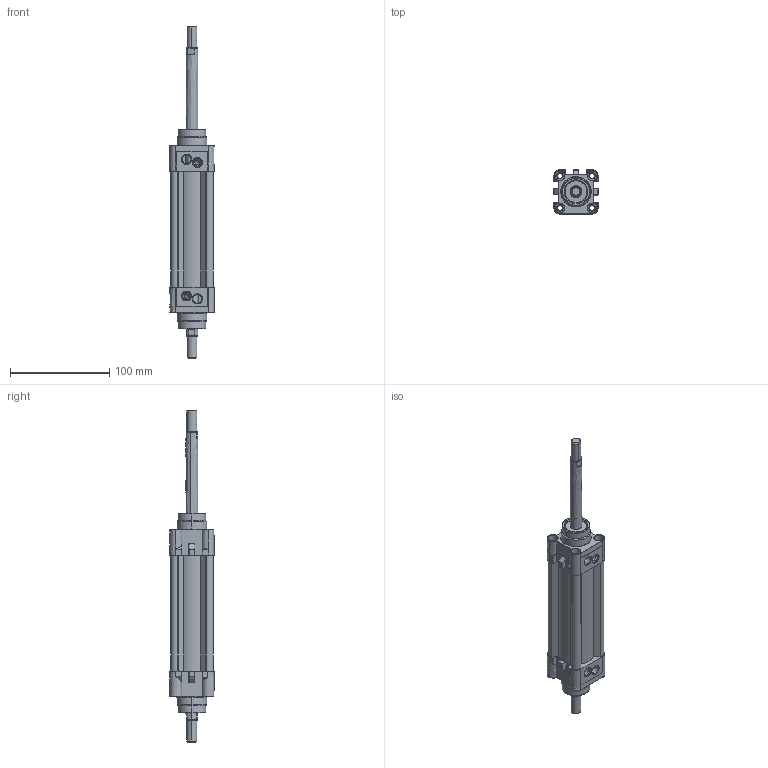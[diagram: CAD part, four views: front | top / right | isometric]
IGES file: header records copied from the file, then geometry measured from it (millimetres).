
Start section: SolidWorks IGES file using analytic representation for surfaces
Global section: file name: D:\ARICA 3D 禽Z軲LER\3D IGES\MDNC 禽FT M軱L輁MDNC32\MDNC32X75CIFTMILLI-CYLINDER.IGS; native system: SolidWorks 2013; preprocessor: SolidWorks 2013; author: user; date: 150325.153204; units: millimetre
Bounding box: 44.48 x 44.68 x 335 mm (x, y, z)
Surface area: 98067.6 mm2 (no closed solid volume)
Topology: 0 solids, 0 shells, 746 faces, 10942 edges, 10894 vertices
Faces by surface type: revolution 429, bspline 317
